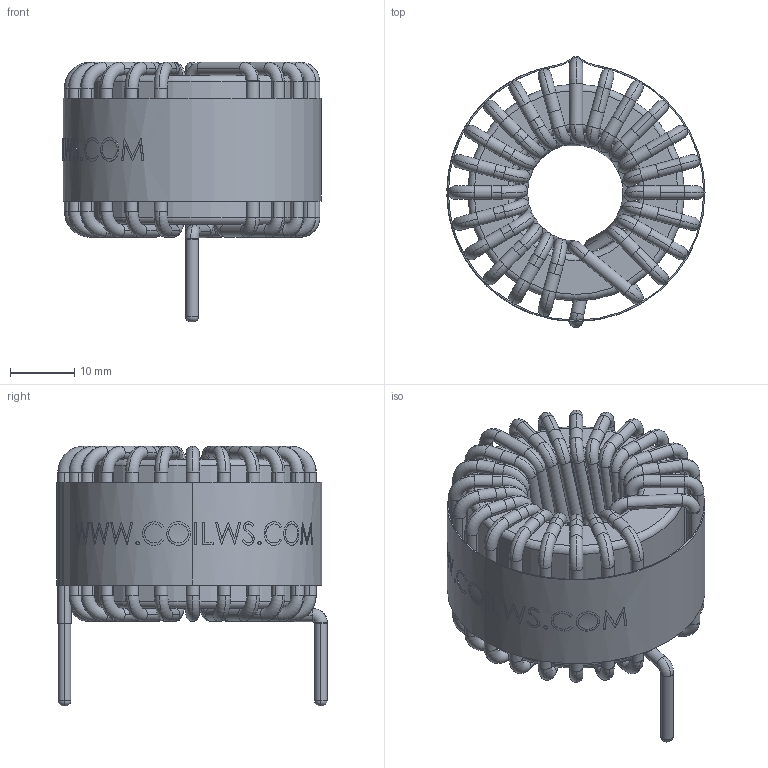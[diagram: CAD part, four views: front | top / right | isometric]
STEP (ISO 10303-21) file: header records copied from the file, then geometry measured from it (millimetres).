
FILE_DESCRIPTION (( 'STEP AP214' ), '1' );
FILE_NAME ('HF3302-700M-25AH.STEP', '2021-05-08T07:29:40', ( '' ), ( '' ), 'SwSTEP 2.0', 'SolidWorks 2015', '' );
FILE_SCHEMA (( 'AUTOMOTIVE_DESIGN' ));
Length unit declared in the file: millimetre
Products named in the file (4): HF3302-700M-25AH; CORE; WRAPPER; WINDING
Assembly tree (3 placements, depth 2):
  HF3302-700M-25AH
    CORE
    WINDING
    WRAPPER
Bounding box: 40.27 x 42.25 x 40.54 mm (x, y, z)
Volume: 19344 mm3; surface area: 18928.4 mm2
Topology: 28 solids, 28 shells, 646 faces, 1672 edges, 1098 vertices
Faces by surface type: cylinder 260, torus 188, bspline 103, plane 95
Entity records: 33808 total; most frequent: CARTESIAN_POINT 13670, DIRECTION 3498, ORIENTED_EDGE 3344, EDGE_CURVE 1672, AXIS2_PLACEMENT_3D 1611, VERTEX_POINT 1098, CIRCLE 1062, EDGE_LOOP 666
